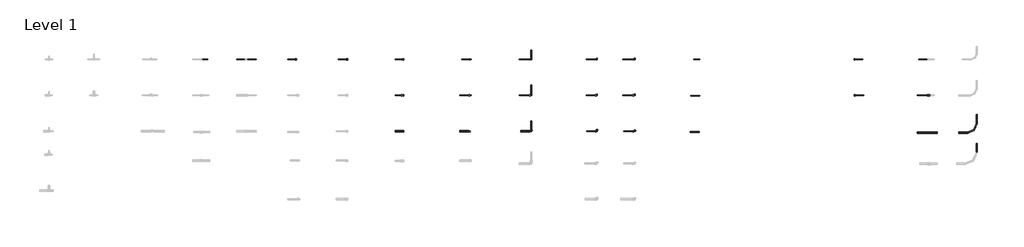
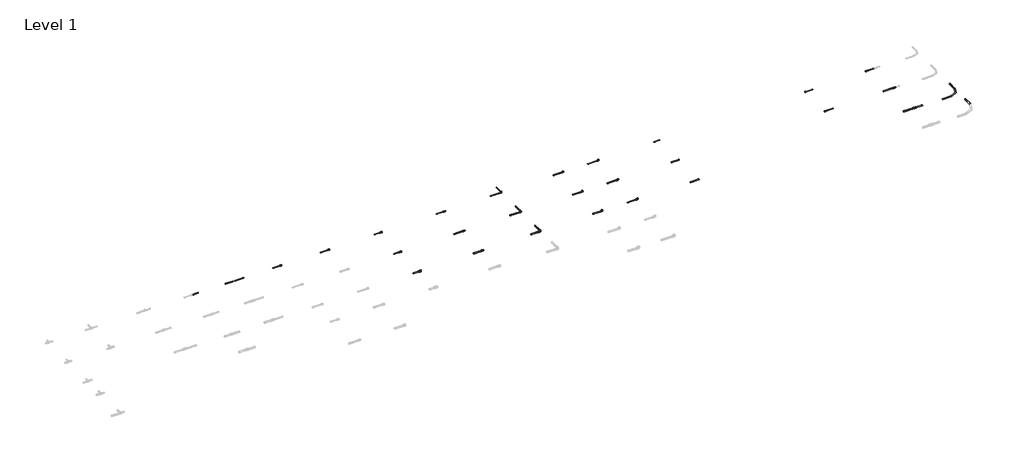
# One storey, part 12 of 16: 35 pipe segments, 24 pipe fittings.
"""IFC4 building model written with IfcOpenShell, lengths in millimetres."""

from ifc_helpers import new_model, si_unit, point, frame, frame_2d, origin, place, context, project, spatial, circle_curve, trimmed, segment, composite_curve, outline, extrude, transform, mapped, element, save
from components import pipe_fitting_3f045704, pipe_fitting_554da5ac, pipe_fitting_11a16acd, pipe_fitting_9dc6dfba, pipe_fitting_c58dc389, pipe_fitting_29307240, pipe_fitting_2e9639ed, pipe_fitting_749d9a03, pipe_fitting_037c3912, pipe_fitting_bf5c4f06, pipe_fitting_1a29b1f6, pipe_fitting_21c97d0d, pipe_fitting_48a19379, pipe_fitting_503ca6ef, pipe_fitting_0c2dddc6, pipe_fitting_fb4eec36, pipe_fitting_127ecf93, pipe_fitting_ad4eddfe, pipe_fitting_73c1a440, pipe_fitting_43ece0d2, pipe_fitting_f574101e, pipe_fitting_8e6c19f7, pipe_fitting_622d26cc, pipe_fitting_bacc4522

model = new_model("IFC4")

# Units and contexts
model_context = context("Model", 3, world=origin())
ifc_project = project(units=[si_unit("LENGTHUNIT", "METRE", prefix="MILLI")], contexts=[model_context])

# Site, building, storey
site = spatial("IfcSite", under=ifc_project)
building = spatial("IfcBuilding", under=site)
storey = spatial("IfcBuildingStorey", under=building, Name="Level 1", Elevation=0.0)

# Pipe fittings
placement = place(None, origin())
pipe_fitting_shape = pipe_fitting_3f045704(model_context)
element("IfcPipeFitting", 1, ObjectType="FASTLOC_Adapter_RX+, with external thread : FSL A C external EX+ DE", at=placement, inside=storey, context=model_context, shape_type="MappedRepresentation", body=[
    mapped(pipe_fitting_shape, transform((10045.0524741, 2012.3520033, 0.0), x_axis=(1.0, 0.0, 0.0), y_axis=(0.0, 1.0, 0.0), z_axis=(0.0, 0.0, 1.0))),
])
pipe_fitting_2_shape = pipe_fitting_554da5ac(model_context)
element("IfcPipeFitting", 2, ObjectType="FASTLOC_Elbow with male thread EX+ : FSL A internal DE", at=placement, inside=storey, context=model_context, shape_type="MappedRepresentation", body=[
    mapped(pipe_fitting_2_shape, transform((16735.3824015, 1212.3520033, 0.0), x_axis=(1.0, 0.0, 0.0), y_axis=(0.0, 1.0, 0.0), z_axis=(0.0, 0.0, 1.0))),
])
pipe_fitting_3_shape = pipe_fitting_11a16acd(model_context)
element("IfcPipeFitting", 3, ObjectType="FASTLOC_Elbow with female thread EX+ : FSL A internal DE", at=placement, inside=storey, context=model_context, shape_type="MappedRepresentation", body=[
    mapped(pipe_fitting_3_shape, transform((17573.8113057, 2012.3520033, 0.0), x_axis=(1.0, 0.0, 0.0), y_axis=(0.0, 1.0, 0.0), z_axis=(0.0, 0.0, 1.0))),
])
pipe_fitting_4_shape = pipe_fitting_9dc6dfba(model_context)
element("IfcPipeFitting", 4, ObjectType="FASTLOC_Corner EX+ : FSL C EX+ DE", at=placement, inside=storey, context=model_context, shape_type="MappedRepresentation", body=[
    mapped(pipe_fitting_4_shape, transform((15275.3824015, 2012.3520033, 0.0), x_axis=(1.0, 0.0, 0.0), y_axis=(0.0, 1.0, 0.0), z_axis=(0.0, 0.0, 1.0))),
])
pipe_fitting_5_shape = pipe_fitting_c58dc389(model_context)
element("IfcPipeFitting", 5, ObjectType="FASTLOC_Blanking plug EX+ : FSL Bp EX+ DE", at=placement, inside=storey, context=model_context, shape_type="MappedRepresentation", body=[
    mapped(pipe_fitting_5_shape, transform((22451.3241081, 2012.3520033, 0.0), x_axis=(1.0, 0.0, 0.0), y_axis=(0.0, 1.0, 0.0), z_axis=(0.0, 0.0, 1.0))),
])
pipe_fitting_6_shape = pipe_fitting_29307240(model_context)
element("IfcPipeFitting", 6, ObjectType="FASTLOC_Adapter_EX+, with internal thread : FSL A internal DE", at=placement, inside=storey, context=model_context, shape_type="MappedRepresentation", body=[
    mapped(pipe_fitting_6_shape, transform((11179.5143796, 2012.3520033, 0.0), x_axis=(1.0, 0.0, 0.0), y_axis=(0.0, 1.0, 0.0), z_axis=(0.0, 0.0, 1.0))),
])
pipe_fitting_7_shape = pipe_fitting_2e9639ed(model_context)
element("IfcPipeFitting", 7, ObjectType="FASTLOC Copper press adapter RX+ : FSL RX+ DE", at=placement, inside=storey, context=model_context, shape_type="MappedRepresentation", body=[
    mapped(pipe_fitting_7_shape, transform((13915.3824015, 2012.3520033, 0.0), x_axis=(1.0, 0.0, 0.0), y_axis=(0.0, 1.0, 0.0), z_axis=(0.0, 0.0, 1.0))),
])
pipe_fitting_8_shape = pipe_fitting_749d9a03(model_context)
element("IfcPipeFitting", 8, ObjectType="RAUTITAN_Sleeve PX : RTI S PX", at=placement, inside=storey, context=model_context, shape_type="MappedRepresentation", body=[
    mapped(pipe_fitting_8_shape, transform((24105.6241081, 1212.3520033, 13.7), x_axis=(1.0, 0.0, 0.0), y_axis=(0.0, 1.0, 0.0), z_axis=(0.0, 0.0, 1.0))),
])
pipe_fitting_9_shape = pipe_fitting_037c3912(model_context)
element("IfcPipeFitting", 9, ObjectType="RAUTITAN_Sleeve PX : RTI S PX", at=placement, inside=storey, context=model_context, shape_type="MappedRepresentation", body=[
    mapped(pipe_fitting_9_shape, transform((24107.9241081, 381.145754, 13.7), x_axis=(1.0, 0.0, 0.0), y_axis=(0.0, 1.0, 0.0), z_axis=(0.0, 0.0, 1.0))),
])
pipe_fitting_10_shape = pipe_fitting_bf5c4f06(model_context)
element("IfcPipeFitting", 10, ObjectType="FASTLOC_ML_bend : FSL ML DE", at=placement, inside=storey, context=model_context, shape_type="MappedRepresentation", body=[
    mapped(pipe_fitting_10_shape, transform((25170.2040344, 381.145754, 0.0), x_axis=(1.0, 0.0, 0.0), y_axis=(0.0, 1.0, 0.0), z_axis=(0.0, 0.0, 1.0))),
])
pipe_fitting_11_shape = pipe_fitting_1a29b1f6(model_context)
element("IfcPipeFitting", 11, ObjectType="FASTLOC_Elbow with male thread EX+ : FSL A internal DE", at=placement, inside=storey, context=model_context, shape_type="MappedRepresentation", body=[
    mapped(pipe_fitting_11_shape, transform((16735.3824015, 2012.3520033, 0.0), x_axis=(1.0, 0.0, 0.0), y_axis=(0.0, 1.0, 0.0), z_axis=(0.0, 0.0, 1.0))),
])
pipe_fitting_12_shape = pipe_fitting_21c97d0d(model_context)
element("IfcPipeFitting", 12, ObjectType="FASTLOC_Elbow with male thread EX+ : FSL A internal DE", at=placement, inside=storey, context=model_context, shape_type="MappedRepresentation", body=[
    mapped(pipe_fitting_12_shape, transform((16735.3824015, 412.3520033, 0.0), x_axis=(1.0, 0.0, 0.0), y_axis=(0.0, 1.0, 0.0), z_axis=(0.0, 0.0, 1.0))),
])
pipe_fitting_13_shape = pipe_fitting_48a19379(model_context)
element("IfcPipeFitting", 13, ObjectType="FASTLOC_Adapter coupling EX+ : FSL TC EX+ DE", at=placement, inside=storey, context=model_context, shape_type="MappedRepresentation", body=[
    mapped(pipe_fitting_13_shape, transform((24091.3241081, 1212.3520033, 13.7), x_axis=(1.0, 0.0, 0.0), y_axis=(0.0, 1.0, 0.0), z_axis=(0.0, 0.0, 1.0))),
])
pipe_fitting_14_shape = pipe_fitting_503ca6ef(model_context)
element("IfcPipeFitting", 14, ObjectType="FASTLOC_Adapter coupling EX+ : FSL TC EX+ DE", at=placement, inside=storey, context=model_context, shape_type="MappedRepresentation", body=[
    mapped(pipe_fitting_14_shape, transform((24091.3241081, 381.145754, 13.7), x_axis=(1.0, 0.0, 0.0), y_axis=(0.0, 1.0, 0.0), z_axis=(0.0, 0.0, 1.0))),
])
pipe_fitting_15_shape = pipe_fitting_0c2dddc6(model_context)
element("IfcPipeFitting", 15, ObjectType="FASTLOC_Blanking plug EX+ : FSL Bp EX+ DE", at=placement, inside=storey, context=model_context, shape_type="MappedRepresentation", body=[
    mapped(pipe_fitting_15_shape, transform((22451.3241081, 1212.3520033, 0.0), x_axis=(1.0, 0.0, 0.0), y_axis=(0.0, 1.0, 0.0), z_axis=(0.0, 0.0, 1.0))),
])
pipe_fitting_16_shape = pipe_fitting_fb4eec36(model_context)
element("IfcPipeFitting", 16, ObjectType="FASTLOC Copper press adapter RX+ : FSL RX+ DE", at=placement, inside=storey, context=model_context, shape_type="MappedRepresentation", body=[
    mapped(pipe_fitting_16_shape, transform((13915.3824015, 1212.3520033, 0.0), x_axis=(1.0, 0.0, 0.0), y_axis=(0.0, 1.0, 0.0), z_axis=(0.0, 0.0, 1.0))),
])
pipe_fitting_17_shape = pipe_fitting_127ecf93(model_context)
element("IfcPipeFitting", 17, ObjectType="FASTLOC Copper press adapter RX+ : FSL RX+ DE", at=placement, inside=storey, context=model_context, shape_type="MappedRepresentation", body=[
    mapped(pipe_fitting_17_shape, transform((13895.3824015, 412.3520033, 0.0), x_axis=(1.0, 0.0, 0.0), y_axis=(0.0, 1.0, 0.0), z_axis=(0.0, 0.0, 1.0))),
])
pipe_fitting_18_shape = pipe_fitting_ad4eddfe(model_context)
element("IfcPipeFitting", 18, ObjectType="FASTLOC_Elbow with female thread EX+ : FSL A internal DE", at=placement, inside=storey, context=model_context, shape_type="MappedRepresentation", body=[
    mapped(pipe_fitting_18_shape, transform((17573.8113057, 1212.3520033, 0.0), x_axis=(1.0, 0.0, 0.0), y_axis=(0.0, 1.0, 0.0), z_axis=(0.0, 0.0, 1.0))),
])
pipe_fitting_19_shape = pipe_fitting_73c1a440(model_context)
element("IfcPipeFitting", 19, ObjectType="FASTLOC_Elbow with female thread EX+ : FSL A internal DE", at=placement, inside=storey, context=model_context, shape_type="MappedRepresentation", body=[
    mapped(pipe_fitting_19_shape, transform((17573.8113057, 412.3520033, 0.0), x_axis=(1.0, 0.0, 0.0), y_axis=(0.0, 1.0, 0.0), z_axis=(0.0, 0.0, 1.0))),
])
pipe_fitting_20_shape = pipe_fitting_43ece0d2(model_context)
element("IfcPipeFitting", 20, ObjectType="FASTLOC_Corner EX+ : FSL C EX+ DE", at=placement, inside=storey, context=model_context, shape_type="MappedRepresentation", body=[
    mapped(pipe_fitting_20_shape, transform((15275.3824015, 1212.3520033, 0.0), x_axis=(1.0, 0.0, 0.0), y_axis=(0.0, 1.0, 0.0), z_axis=(0.0, 0.0, 1.0))),
])
pipe_fitting_21_shape = pipe_fitting_f574101e(model_context)
element("IfcPipeFitting", 21, ObjectType="FASTLOC_Corner EX+ : FSL C EX+ DE", at=placement, inside=storey, context=model_context, shape_type="MappedRepresentation", body=[
    mapped(pipe_fitting_21_shape, transform((15275.3824015, 412.3520033, 0.0), x_axis=(1.0, 0.0, 0.0), y_axis=(0.0, 1.0, 0.0), z_axis=(0.0, 0.0, 1.0))),
])
pipe_fitting_22_shape = pipe_fitting_8e6c19f7(model_context)
element("IfcPipeFitting", 22, ObjectType="FASTLOC_Adapter with union nut EX+ : FSL A union nut EX+ DE", at=placement, inside=storey, context=model_context, shape_type="MappedRepresentation", body=[
    mapped(pipe_fitting_22_shape, transform((12418.3503777, 2012.3520033, 0.0), x_axis=(1.0, 0.0, 0.0), y_axis=(0.0, 1.0, 0.0), z_axis=(0.0, 0.0, 1.0))),
])
pipe_fitting_23_shape = pipe_fitting_622d26cc(model_context)
element("IfcPipeFitting", 23, ObjectType="FASTLOC_Adapter with union nut EX+ : FSL A union nut EX+ DE", at=placement, inside=storey, context=model_context, shape_type="MappedRepresentation", body=[
    mapped(pipe_fitting_23_shape, transform((12418.3503777, 1212.3520033, 0.0), x_axis=(1.0, 0.0, 0.0), y_axis=(0.0, 1.0, 0.0), z_axis=(0.0, 0.0, 1.0))),
])
pipe_fitting_24_shape = pipe_fitting_bacc4522(model_context)
element("IfcPipeFitting", 24, ObjectType="FASTLOC_Adapter with union nut EX+ : FSL A union nut EX+ DE", at=placement, inside=storey, context=model_context, shape_type="MappedRepresentation", body=[
    mapped(pipe_fitting_24_shape, transform((12418.3503777, 412.3520033, 0.0), x_axis=(1.0, 0.0, 0.0), y_axis=(0.0, 1.0, 0.0), z_axis=(0.0, 0.0, 1.0))),
])

# Pipe segments
element("IfcPipeSegment", 25, ObjectType="FASTLOC EX+ ML DE bar", at=placement, inside=storey, context=model_context, shape_type="SweptSolid", body=[
    extrude(outline(composite_curve([segment(trimmed(circle_curve(frame_2d((0.0, 25170.2040344)), 12.5), [point((0.0, 25182.7040344))], [point((12.5, 25170.2040344))], False, "CARTESIAN"), True, "CONTINUOUS"), segment(trimmed(circle_curve(frame_2d((0.0, 25170.2040344)), 12.5), [point((12.5, 25170.2040344))], [point((0.0, 25157.7040344))], False, "CARTESIAN"), True, "CONTINUOUS"), segment(trimmed(circle_curve(frame_2d((0.0, 25170.2040344)), 12.5), [point((0.0, 25157.7040344))], [point((-12.5, 25170.2040344))], False, "CARTESIAN"), True, "CONTINUOUS"), segment(trimmed(circle_curve(frame_2d((0.0, 25170.2040344)), 12.5), [point((-12.5, 25170.2040344))], [point((0.0, 25182.7040344))], False, "CARTESIAN"), True, "CONTINUOUS")], self_intersect=False)), frame((0.0, 581.145754, 0.0), z_axis=(0.0, 1.0, 0.0), x_axis=(0.0, 0.0, 1.0)), (0.0, 0.0, 1.0), 200.0),
])
element("IfcPipeSegment", 26, ObjectType="FASTLOC EX+ ML DE bar", at=placement, inside=storey, context=model_context, shape_type="SweptSolid", body=[
    extrude(outline(composite_curve([segment(trimmed(circle_curve(frame_2d((381.145754, 0.0)), 12.5), [point((393.645754, 0.0))], [point((381.145754, -12.5))], False, "CARTESIAN"), True, "CONTINUOUS"), segment(trimmed(circle_curve(frame_2d((381.145754, 0.0)), 12.5), [point((381.145754, -12.5))], [point((368.645754, 0.0))], False, "CARTESIAN"), True, "CONTINUOUS"), segment(trimmed(circle_curve(frame_2d((381.145754, 0.0)), 12.5), [point((368.645754, 0.0))], [point((381.145754, 12.5))], False, "CARTESIAN"), True, "CONTINUOUS"), segment(trimmed(circle_curve(frame_2d((381.145754, 0.0)), 12.5), [point((381.145754, 12.5))], [point((393.645754, 0.0))], False, "CARTESIAN"), True, "CONTINUOUS")], self_intersect=False)), frame((24770.2040344, 0.0, 0.0), z_axis=(1.0, 0.0, 0.0), x_axis=(0.0, 1.0, 0.0)), (0.0, 0.0, 1.0), 200.0),
])
element("IfcPipeSegment", 27, ObjectType="FASTLOC EX+ ML DE bar", at=placement, inside=storey, context=model_context, shape_type="SweptSolid", body=[
    extrude(outline(composite_curve([segment(trimmed(circle_curve(frame_2d((0.0, 25170.2040344)), 16.0), [point((0.0, 25186.2040344))], [point((16.0, 25170.2040344))], False, "CARTESIAN"), True, "CONTINUOUS"), segment(trimmed(circle_curve(frame_2d((0.0, 25170.2040344)), 16.0), [point((16.0, 25170.2040344))], [point((0.0, 25154.2040344))], False, "CARTESIAN"), True, "CONTINUOUS"), segment(trimmed(circle_curve(frame_2d((0.0, 25170.2040344)), 16.0), [point((0.0, 25154.2040344))], [point((-16.0, 25170.2040344))], False, "CARTESIAN"), True, "CONTINUOUS"), segment(trimmed(circle_curve(frame_2d((0.0, 25170.2040344)), 16.0), [point((-16.0, 25170.2040344))], [point((0.0, 25186.2040344))], False, "CARTESIAN"), True, "CONTINUOUS")], self_intersect=False)), frame((0.0, -55.8142398, 0.0), z_axis=(0.0, 1.0, 0.0), x_axis=(0.0, 0.0, 1.0)), (0.0, 0.0, 1.0), 200.0),
])
element("IfcPipeSegment", 28, ObjectType="FASTLOC EX+ ML DE bar", at=placement, inside=storey, context=model_context, shape_type="SweptSolid", body=[
    extrude(outline(composite_curve([segment(trimmed(circle_curve(frame_2d((381.145754, 13.7)), 12.5), [point((393.645754, 13.7))], [point((381.145754, 1.2))], False, "CARTESIAN"), True, "CONTINUOUS"), segment(trimmed(circle_curve(frame_2d((381.145754, 13.7)), 12.5), [point((381.145754, 1.2))], [point((368.645754, 13.7))], False, "CARTESIAN"), True, "CONTINUOUS"), segment(trimmed(circle_curve(frame_2d((381.145754, 13.7)), 12.5), [point((368.645754, 13.7))], [point((381.145754, 26.2))], False, "CARTESIAN"), True, "CONTINUOUS"), segment(trimmed(circle_curve(frame_2d((381.145754, 13.7)), 12.5), [point((381.145754, 26.2))], [point((393.645754, 13.7))], False, "CARTESIAN"), True, "CONTINUOUS")], self_intersect=False)), frame((23846.7241081, 0.0, 0.0), z_axis=(1.0, 0.0, 0.0), x_axis=(0.0, 1.0, 0.0)), (0.0, 0.0, 1.0), 240.0),
])
element("IfcPipeSegment", 29, ObjectType="FASTLOC EX+ ML DE bar", at=placement, inside=storey, context=model_context, shape_type="SweptSolid", body=[
    extrude(outline(composite_curve([segment(trimmed(circle_curve(frame_2d((381.145754, 13.7)), 12.5), [point((368.645754, 13.7))], [point((381.145754, 26.2))], False, "CARTESIAN"), True, "CONTINUOUS"), segment(trimmed(circle_curve(frame_2d((381.145754, 13.7)), 12.5), [point((381.145754, 26.2))], [point((393.645754, 13.7))], False, "CARTESIAN"), True, "CONTINUOUS"), segment(trimmed(circle_curve(frame_2d((381.145754, 13.7)), 12.5), [point((393.645754, 13.7))], [point((381.145754, 1.2))], False, "CARTESIAN"), True, "CONTINUOUS"), segment(trimmed(circle_curve(frame_2d((381.145754, 13.7)), 12.5), [point((381.145754, 1.2))], [point((368.645754, 13.7))], False, "CARTESIAN"), True, "CONTINUOUS")], self_intersect=False)), frame((24107.9241081, 0.0, 0.0), z_axis=(1.0, 0.0, 0.0), x_axis=(0.0, 1.0, 0.0)), (0.0, 0.0, 1.0), 182.7),
])
element("IfcPipeSegment", 30, ObjectType="FASTLOC EX+ ML DE bar", at=placement, inside=storey, context=model_context, shape_type="SweptSolid", body=[
    extrude(outline(composite_curve([segment(trimmed(circle_curve(frame_2d((1212.3520033, 13.7)), 10.0), [point((1222.3520033, 13.7))], [point((1212.3520033, 3.7))], False, "CARTESIAN"), True, "CONTINUOUS"), segment(trimmed(circle_curve(frame_2d((1212.3520033, 13.7)), 10.0), [point((1212.3520033, 3.7))], [point((1202.3520033, 13.7))], False, "CARTESIAN"), True, "CONTINUOUS"), segment(trimmed(circle_curve(frame_2d((1212.3520033, 13.7)), 10.0), [point((1202.3520033, 13.7))], [point((1212.3520033, 23.7))], False, "CARTESIAN"), True, "CONTINUOUS"), segment(trimmed(circle_curve(frame_2d((1212.3520033, 13.7)), 10.0), [point((1212.3520033, 23.7))], [point((1222.3520033, 13.7))], False, "CARTESIAN"), True, "CONTINUOUS")], self_intersect=False)), frame((23846.7241081, 0.0, 0.0), z_axis=(1.0, 0.0, 0.0), x_axis=(0.0, 1.0, 0.0)), (0.0, 0.0, 1.0), 240.3),
])
element("IfcPipeSegment", 31, ObjectType="FASTLOC EX+ ML DE bar", at=placement, inside=storey, context=model_context, shape_type="SweptSolid", body=[
    extrude(outline(composite_curve([segment(trimmed(circle_curve(frame_2d((2012.3520033, 13.7)), 8.0), [point((2020.3520033, 13.7))], [point((2012.3520033, 5.7))], False, "CARTESIAN"), True, "CONTINUOUS"), segment(trimmed(circle_curve(frame_2d((2012.3520033, 13.7)), 8.0), [point((2012.3520033, 5.7))], [point((2004.3520033, 13.7))], False, "CARTESIAN"), True, "CONTINUOUS"), segment(trimmed(circle_curve(frame_2d((2012.3520033, 13.7)), 8.0), [point((2004.3520033, 13.7))], [point((2012.3520033, 21.7))], False, "CARTESIAN"), True, "CONTINUOUS"), segment(trimmed(circle_curve(frame_2d((2012.3520033, 13.7)), 8.0), [point((2012.3520033, 21.7))], [point((2020.3520033, 13.7))], False, "CARTESIAN"), True, "CONTINUOUS")], self_intersect=False)), frame((23887.0241081, 0.0, 0.0), z_axis=(1.0, 0.0, 0.0), x_axis=(0.0, 1.0, 0.0)), (0.0, 0.0, 1.0), 200.0),
])
element("IfcPipeSegment", 32, ObjectType="FASTLOC EX+ ML DE bar", at=placement, inside=storey, context=model_context, shape_type="SweptSolid", body=[
    extrude(outline(composite_curve([segment(trimmed(circle_curve(frame_2d((2012.3520033, 0.0)), 8.0), [point((2004.3520033, 0.0))], [point((2012.3520033, 8.0))], False, "CARTESIAN"), True, "CONTINUOUS"), segment(trimmed(circle_curve(frame_2d((2012.3520033, 0.0)), 8.0), [point((2012.3520033, 8.0))], [point((2020.3520033, 0.0))], False, "CARTESIAN"), True, "CONTINUOUS"), segment(trimmed(circle_curve(frame_2d((2012.3520033, 0.0)), 8.0), [point((2020.3520033, 0.0))], [point((2012.3520033, -8.0))], False, "CARTESIAN"), True, "CONTINUOUS"), segment(trimmed(circle_curve(frame_2d((2012.3520033, 0.0)), 8.0), [point((2012.3520033, -8.0))], [point((2004.3520033, 0.0))], False, "CARTESIAN"), True, "CONTINUOUS")], self_intersect=False)), frame((22458.0241081, 0.0, 0.0), z_axis=(1.0, 0.0, 0.0), x_axis=(0.0, 1.0, 0.0)), (0.0, 0.0, 1.0), 180.0),
])
element("IfcPipeSegment", 33, ObjectType="FASTLOC EX+ ML DE bar", at=placement, inside=storey, context=model_context, shape_type="SweptSolid", body=[
    extrude(outline(composite_curve([segment(trimmed(circle_curve(frame_2d((1212.3520033, 0.0)), 10.0), [point((1202.3520033, 0.0))], [point((1212.3520033, 10.0))], False, "CARTESIAN"), True, "CONTINUOUS"), segment(trimmed(circle_curve(frame_2d((1212.3520033, 0.0)), 10.0), [point((1212.3520033, 10.0))], [point((1222.3520033, 0.0))], False, "CARTESIAN"), True, "CONTINUOUS"), segment(trimmed(circle_curve(frame_2d((1212.3520033, 0.0)), 10.0), [point((1222.3520033, 0.0))], [point((1212.3520033, -10.0))], False, "CARTESIAN"), True, "CONTINUOUS"), segment(trimmed(circle_curve(frame_2d((1212.3520033, 0.0)), 10.0), [point((1212.3520033, -10.0))], [point((1202.3520033, 0.0))], False, "CARTESIAN"), True, "CONTINUOUS")], self_intersect=False)), frame((22458.0241081, 0.0, 0.0), z_axis=(1.0, 0.0, 0.0), x_axis=(0.0, 1.0, 0.0)), (0.0, 0.0, 1.0), 200.0),
])
element("IfcPipeSegment", 34, ObjectType="FASTLOC EX+ ML DE bar", at=placement, inside=storey, context=model_context, shape_type="SweptSolid", body=[
    extrude(outline(composite_curve([segment(trimmed(circle_curve(frame_2d((2012.3520033, 0.0)), 8.0), [point((2020.3520033, 0.0))], [point((2012.3520033, -8.0))], False, "CARTESIAN"), True, "CONTINUOUS"), segment(trimmed(circle_curve(frame_2d((2012.3520033, 0.0)), 8.0), [point((2012.3520033, -8.0))], [point((2004.3520033, 0.0))], False, "CARTESIAN"), True, "CONTINUOUS"), segment(trimmed(circle_curve(frame_2d((2012.3520033, 0.0)), 8.0), [point((2004.3520033, 0.0))], [point((2012.3520033, 8.0))], False, "CARTESIAN"), True, "CONTINUOUS"), segment(trimmed(circle_curve(frame_2d((2012.3520033, 0.0)), 8.0), [point((2012.3520033, 8.0))], [point((2020.3520033, 0.0))], False, "CARTESIAN"), True, "CONTINUOUS")], self_intersect=False)), frame((18882.8824015, 0.0, 0.0), z_axis=(1.0, 0.0, 0.0), x_axis=(0.0, 1.0, 0.0)), (0.0, 0.0, 1.0), 130.0),
])
element("IfcPipeSegment", 35, ObjectType="FASTLOC EX+ ML DE bar", at=placement, inside=storey, context=model_context, shape_type="SweptSolid", body=[
    extrude(outline(composite_curve([segment(trimmed(circle_curve(frame_2d((1204.3520033, 0.0)), 8.0), [point((1212.3520033, 0.0))], [point((1204.3520033, -8.0))], False, "CARTESIAN"), True, "CONTINUOUS"), segment(trimmed(circle_curve(frame_2d((1204.3520033, 0.0)), 8.0), [point((1204.3520033, -8.0))], [point((1196.3520033, 0.0))], False, "CARTESIAN"), True, "CONTINUOUS"), segment(trimmed(circle_curve(frame_2d((1204.3520033, 0.0)), 8.0), [point((1196.3520033, 0.0))], [point((1204.3520033, 8.0))], False, "CARTESIAN"), True, "CONTINUOUS"), segment(trimmed(circle_curve(frame_2d((1204.3520033, 0.0)), 8.0), [point((1204.3520033, 8.0))], [point((1212.3520033, 0.0))], False, "CARTESIAN"), True, "CONTINUOUS")], self_intersect=False)), frame((18822.8824015, 0.0, 0.0), z_axis=(1.0, 0.0, 0.0), x_axis=(0.0, 1.0, 0.0)), (0.0, 0.0, 1.0), 190.0),
])
element("IfcPipeSegment", 36, ObjectType="FASTLOC EX+ ML DE bar", at=placement, inside=storey, context=model_context, shape_type="SweptSolid", body=[
    extrude(outline(composite_curve([segment(trimmed(circle_curve(frame_2d((393.645754, 0.0)), 12.5), [point((406.145754, 0.0))], [point((393.645754, -12.5))], False, "CARTESIAN"), True, "CONTINUOUS"), segment(trimmed(circle_curve(frame_2d((393.645754, 0.0)), 12.5), [point((393.645754, -12.5))], [point((381.145754, 0.0))], False, "CARTESIAN"), True, "CONTINUOUS"), segment(trimmed(circle_curve(frame_2d((393.645754, 0.0)), 12.5), [point((381.145754, 0.0))], [point((393.645754, 12.5))], False, "CARTESIAN"), True, "CONTINUOUS"), segment(trimmed(circle_curve(frame_2d((393.645754, 0.0)), 12.5), [point((393.645754, 12.5))], [point((406.145754, 0.0))], False, "CARTESIAN"), True, "CONTINUOUS")], self_intersect=False)), frame((18808.4824015, 0.0, 0.0), z_axis=(1.0, 0.0, 0.0), x_axis=(0.0, 1.0, 0.0)), (0.0, 0.0, 1.0), 200.0),
])
element("IfcPipeSegment", 37, ObjectType="FASTLOC EX+ ML DE bar", at=placement, inside=storey, context=model_context, shape_type="SweptSolid", body=[
    extrude(outline(composite_curve([segment(trimmed(circle_curve(frame_2d((412.3520033, 0.0)), 10.0), [point((422.3520033, 0.0))], [point((412.3520033, -10.0))], False, "CARTESIAN"), True, "CONTINUOUS"), segment(trimmed(circle_curve(frame_2d((412.3520033, 0.0)), 10.0), [point((412.3520033, -10.0))], [point((402.3520033, 0.0))], False, "CARTESIAN"), True, "CONTINUOUS"), segment(trimmed(circle_curve(frame_2d((412.3520033, 0.0)), 10.0), [point((402.3520033, 0.0))], [point((412.3520033, 10.0))], False, "CARTESIAN"), True, "CONTINUOUS"), segment(trimmed(circle_curve(frame_2d((412.3520033, 0.0)), 10.0), [point((412.3520033, 10.0))], [point((422.3520033, 0.0))], False, "CARTESIAN"), True, "CONTINUOUS")], self_intersect=False)), frame((17326.8113057, 0.0, 0.0), z_axis=(1.0, 0.0, 0.0), x_axis=(0.0, 1.0, 0.0)), (0.0, 0.0, 1.0), 221.0),
])
element("IfcPipeSegment", 38, ObjectType="FASTLOC EX+ ML DE bar", at=placement, inside=storey, context=model_context, shape_type="SweptSolid", body=[
    extrude(outline(composite_curve([segment(trimmed(circle_curve(frame_2d((1212.3520033, 0.0)), 10.0), [point((1222.3520033, 0.0))], [point((1212.3520033, -10.0))], False, "CARTESIAN"), True, "CONTINUOUS"), segment(trimmed(circle_curve(frame_2d((1212.3520033, 0.0)), 10.0), [point((1212.3520033, -10.0))], [point((1202.3520033, 0.0))], False, "CARTESIAN"), True, "CONTINUOUS"), segment(trimmed(circle_curve(frame_2d((1212.3520033, 0.0)), 10.0), [point((1202.3520033, 0.0))], [point((1212.3520033, 10.0))], False, "CARTESIAN"), True, "CONTINUOUS"), segment(trimmed(circle_curve(frame_2d((1212.3520033, 0.0)), 10.0), [point((1212.3520033, 10.0))], [point((1222.3520033, 0.0))], False, "CARTESIAN"), True, "CONTINUOUS")], self_intersect=False)), frame((17311.1113057, 0.0, 0.0), z_axis=(1.0, 0.0, 0.0), x_axis=(0.0, 1.0, 0.0)), (0.0, 0.0, 1.0), 240.0),
])
element("IfcPipeSegment", 39, ObjectType="FASTLOC EX+ ML DE bar", at=placement, inside=storey, context=model_context, shape_type="SweptSolid", body=[
    extrude(outline(composite_curve([segment(trimmed(circle_curve(frame_2d((2012.3520033, 0.0)), 8.0), [point((2020.3520033, 0.0))], [point((2012.3520033, -8.0))], False, "CARTESIAN"), True, "CONTINUOUS"), segment(trimmed(circle_curve(frame_2d((2012.3520033, 0.0)), 8.0), [point((2012.3520033, -8.0))], [point((2004.3520033, 0.0))], False, "CARTESIAN"), True, "CONTINUOUS"), segment(trimmed(circle_curve(frame_2d((2012.3520033, 0.0)), 8.0), [point((2004.3520033, 0.0))], [point((2012.3520033, 8.0))], False, "CARTESIAN"), True, "CONTINUOUS"), segment(trimmed(circle_curve(frame_2d((2012.3520033, 0.0)), 8.0), [point((2012.3520033, 8.0))], [point((2020.3520033, 0.0))], False, "CARTESIAN"), True, "CONTINUOUS")], self_intersect=False)), frame((17311.1113057, 0.0, 0.0), z_axis=(1.0, 0.0, 0.0), x_axis=(0.0, 1.0, 0.0)), (0.0, 0.0, 1.0), 240.4),
])
element("IfcPipeSegment", 40, ObjectType="FASTLOC EX+ ML DE bar", at=placement, inside=storey, context=model_context, shape_type="SweptSolid", body=[
    extrude(outline(composite_curve([segment(trimmed(circle_curve(frame_2d((2012.3520033, 0.0)), 8.0), [point((2020.3520033, 0.0))], [point((2012.3520033, -8.0))], False, "CARTESIAN"), True, "CONTINUOUS"), segment(trimmed(circle_curve(frame_2d((2012.3520033, 0.0)), 8.0), [point((2012.3520033, -8.0))], [point((2004.3520033, 0.0))], False, "CARTESIAN"), True, "CONTINUOUS"), segment(trimmed(circle_curve(frame_2d((2012.3520033, 0.0)), 8.0), [point((2004.3520033, 0.0))], [point((2012.3520033, 8.0))], False, "CARTESIAN"), True, "CONTINUOUS"), segment(trimmed(circle_curve(frame_2d((2012.3520033, 0.0)), 8.0), [point((2012.3520033, 8.0))], [point((2020.3520033, 0.0))], False, "CARTESIAN"), True, "CONTINUOUS")], self_intersect=False)), frame((16495.5824015, 0.0, 0.0), z_axis=(1.0, 0.0, 0.0), x_axis=(0.0, 1.0, 0.0)), (0.0, 0.0, 1.0), 220.0),
])
element("IfcPipeSegment", 41, ObjectType="FASTLOC EX+ ML DE bar", at=placement, inside=storey, context=model_context, shape_type="SweptSolid", body=[
    extrude(outline(composite_curve([segment(trimmed(circle_curve(frame_2d((1212.3520033, 0.0)), 10.0), [point((1222.3520033, 0.0))], [point((1212.3520033, -10.0))], False, "CARTESIAN"), True, "CONTINUOUS"), segment(trimmed(circle_curve(frame_2d((1212.3520033, 0.0)), 10.0), [point((1212.3520033, -10.0))], [point((1202.3520033, 0.0))], False, "CARTESIAN"), True, "CONTINUOUS"), segment(trimmed(circle_curve(frame_2d((1212.3520033, 0.0)), 10.0), [point((1202.3520033, 0.0))], [point((1212.3520033, 10.0))], False, "CARTESIAN"), True, "CONTINUOUS"), segment(trimmed(circle_curve(frame_2d((1212.3520033, 0.0)), 10.0), [point((1212.3520033, 10.0))], [point((1222.3520033, 0.0))], False, "CARTESIAN"), True, "CONTINUOUS")], self_intersect=False)), frame((16495.5824015, 0.0, 0.0), z_axis=(1.0, 0.0, 0.0), x_axis=(0.0, 1.0, 0.0)), (0.0, 0.0, 1.0), 219.6),
])
element("IfcPipeSegment", 42, ObjectType="FASTLOC EX+ ML DE bar", at=placement, inside=storey, context=model_context, shape_type="SweptSolid", body=[
    extrude(outline(composite_curve([segment(trimmed(circle_curve(frame_2d((412.3520033, 0.0)), 10.0), [point((422.3520033, 0.0))], [point((412.3520033, -10.0))], False, "CARTESIAN"), True, "CONTINUOUS"), segment(trimmed(circle_curve(frame_2d((412.3520033, 0.0)), 10.0), [point((412.3520033, -10.0))], [point((402.3520033, 0.0))], False, "CARTESIAN"), True, "CONTINUOUS"), segment(trimmed(circle_curve(frame_2d((412.3520033, 0.0)), 10.0), [point((402.3520033, 0.0))], [point((412.3520033, 10.0))], False, "CARTESIAN"), True, "CONTINUOUS"), segment(trimmed(circle_curve(frame_2d((412.3520033, 0.0)), 10.0), [point((412.3520033, 10.0))], [point((422.3520033, 0.0))], False, "CARTESIAN"), True, "CONTINUOUS")], self_intersect=False)), frame((16512.1824015, 0.0, 0.0), z_axis=(1.0, 0.0, 0.0), x_axis=(0.0, 1.0, 0.0)), (0.0, 0.0, 1.0), 200.0),
])
element("IfcPipeSegment", 43, ObjectType="FASTLOC EX+ ML DE bar", at=placement, inside=storey, context=model_context, shape_type="SweptSolid", body=[
    extrude(outline(composite_curve([segment(trimmed(circle_curve(frame_2d((2012.3520033, 0.0)), 8.0), [point((2020.3520033, 0.0))], [point((2012.3520033, -8.0))], False, "CARTESIAN"), True, "CONTINUOUS"), segment(trimmed(circle_curve(frame_2d((2012.3520033, 0.0)), 8.0), [point((2012.3520033, -8.0))], [point((2004.3520033, 0.0))], False, "CARTESIAN"), True, "CONTINUOUS"), segment(trimmed(circle_curve(frame_2d((2012.3520033, 0.0)), 8.0), [point((2004.3520033, 0.0))], [point((2012.3520033, 8.0))], False, "CARTESIAN"), True, "CONTINUOUS"), segment(trimmed(circle_curve(frame_2d((2012.3520033, 0.0)), 8.0), [point((2012.3520033, 8.0))], [point((2020.3520033, 0.0))], False, "CARTESIAN"), True, "CONTINUOUS")], self_intersect=False)), frame((15013.2824015, 0.0, 0.0), z_axis=(1.0, 0.0, 0.0), x_axis=(0.0, 1.0, 0.0)), (0.0, 0.0, 1.0), 240.0),
])
element("IfcPipeSegment", 44, ObjectType="FASTLOC EX+ ML DE bar", at=placement, inside=storey, context=model_context, shape_type="SweptSolid", body=[
    extrude(outline(composite_curve([segment(trimmed(circle_curve(frame_2d((1212.3520033, 0.0)), 10.0), [point((1222.3520033, 0.0))], [point((1212.3520033, -10.0))], False, "CARTESIAN"), True, "CONTINUOUS"), segment(trimmed(circle_curve(frame_2d((1212.3520033, 0.0)), 10.0), [point((1212.3520033, -10.0))], [point((1202.3520033, 0.0))], False, "CARTESIAN"), True, "CONTINUOUS"), segment(trimmed(circle_curve(frame_2d((1212.3520033, 0.0)), 10.0), [point((1202.3520033, 0.0))], [point((1212.3520033, 10.0))], False, "CARTESIAN"), True, "CONTINUOUS"), segment(trimmed(circle_curve(frame_2d((1212.3520033, 0.0)), 10.0), [point((1212.3520033, 10.0))], [point((1222.3520033, 0.0))], False, "CARTESIAN"), True, "CONTINUOUS")], self_intersect=False)), frame((15013.2824015, 0.0, 0.0), z_axis=(1.0, 0.0, 0.0), x_axis=(0.0, 1.0, 0.0)), (0.0, 0.0, 1.0), 237.5),
])
element("IfcPipeSegment", 45, ObjectType="FASTLOC EX+ ML DE bar", at=placement, inside=storey, context=model_context, shape_type="SweptSolid", body=[
    extrude(outline(composite_curve([segment(trimmed(circle_curve(frame_2d((0.0, 15275.3824015)), 10.0), [point((0.0, 15285.3824015))], [point((10.0, 15275.3824015))], False, "CARTESIAN"), True, "CONTINUOUS"), segment(trimmed(circle_curve(frame_2d((0.0, 15275.3824015)), 10.0), [point((10.0, 15275.3824015))], [point((0.0, 15265.3824015))], False, "CARTESIAN"), True, "CONTINUOUS"), segment(trimmed(circle_curve(frame_2d((0.0, 15275.3824015)), 10.0), [point((0.0, 15265.3824015))], [point((-10.0, 15275.3824015))], False, "CARTESIAN"), True, "CONTINUOUS"), segment(trimmed(circle_curve(frame_2d((0.0, 15275.3824015)), 10.0), [point((-10.0, 15275.3824015))], [point((0.0, 15285.3824015))], False, "CARTESIAN"), True, "CONTINUOUS")], self_intersect=False)), frame((0.0, 1236.9520033, 0.0), z_axis=(0.0, 1.0, 0.0), x_axis=(0.0, 0.0, 1.0)), (0.0, 0.0, 1.0), 200.0),
])
element("IfcPipeSegment", 46, ObjectType="FASTLOC EX+ ML DE bar", at=placement, inside=storey, context=model_context, shape_type="SweptSolid", body=[
    extrude(outline(composite_curve([segment(trimmed(circle_curve(frame_2d((0.0, 15275.3824015)), 8.0), [point((0.0, 15283.3824015))], [point((8.0, 15275.3824015))], False, "CARTESIAN"), True, "CONTINUOUS"), segment(trimmed(circle_curve(frame_2d((0.0, 15275.3824015)), 8.0), [point((8.0, 15275.3824015))], [point((0.0, 15267.3824015))], False, "CARTESIAN"), True, "CONTINUOUS"), segment(trimmed(circle_curve(frame_2d((0.0, 15275.3824015)), 8.0), [point((0.0, 15267.3824015))], [point((-8.0, 15275.3824015))], False, "CARTESIAN"), True, "CONTINUOUS"), segment(trimmed(circle_curve(frame_2d((0.0, 15275.3824015)), 8.0), [point((-8.0, 15275.3824015))], [point((0.0, 15283.3824015))], False, "CARTESIAN"), True, "CONTINUOUS")], self_intersect=False)), frame((0.0, 2034.4520033, 0.0), z_axis=(0.0, 1.0, 0.0), x_axis=(0.0, 0.0, 1.0)), (0.0, 0.0, 1.0), 180.0),
])
element("IfcPipeSegment", 47, ObjectType="FASTLOC EX+ ML DE bar", at=placement, inside=storey, context=model_context, shape_type="SweptSolid", body=[
    extrude(outline(composite_curve([segment(trimmed(circle_curve(frame_2d((0.0, 15275.3824015)), 12.5), [point((0.0, 15287.8824015))], [point((12.5, 15275.3824015))], False, "CARTESIAN"), True, "CONTINUOUS"), segment(trimmed(circle_curve(frame_2d((0.0, 15275.3824015)), 12.5), [point((12.5, 15275.3824015))], [point((0.0, 15262.8824015))], False, "CARTESIAN"), True, "CONTINUOUS"), segment(trimmed(circle_curve(frame_2d((0.0, 15275.3824015)), 12.5), [point((0.0, 15262.8824015))], [point((-12.5, 15275.3824015))], False, "CARTESIAN"), True, "CONTINUOUS"), segment(trimmed(circle_curve(frame_2d((0.0, 15275.3824015)), 12.5), [point((-12.5, 15275.3824015))], [point((0.0, 15287.8824015))], False, "CARTESIAN"), True, "CONTINUOUS")], self_intersect=False)), frame((0.0, 441.3520033, 0.0), z_axis=(0.0, 1.0, 0.0), x_axis=(0.0, 0.0, 1.0)), (0.0, 0.0, 1.0), 200.0),
])
element("IfcPipeSegment", 48, ObjectType="FASTLOC EX+ ML DE bar", at=placement, inside=storey, context=model_context, shape_type="SweptSolid", body=[
    extrude(outline(composite_curve([segment(trimmed(circle_curve(frame_2d((412.3520033, 0.0)), 12.5), [point((424.8520033, 0.0))], [point((412.3520033, -12.5))], False, "CARTESIAN"), True, "CONTINUOUS"), segment(trimmed(circle_curve(frame_2d((412.3520033, 0.0)), 12.5), [point((412.3520033, -12.5))], [point((399.8520033, 0.0))], False, "CARTESIAN"), True, "CONTINUOUS"), segment(trimmed(circle_curve(frame_2d((412.3520033, 0.0)), 12.5), [point((399.8520033, 0.0))], [point((412.3520033, 12.5))], False, "CARTESIAN"), True, "CONTINUOUS"), segment(trimmed(circle_curve(frame_2d((412.3520033, 0.0)), 12.5), [point((412.3520033, 12.5))], [point((424.8520033, 0.0))], False, "CARTESIAN"), True, "CONTINUOUS")], self_intersect=False)), frame((15046.3824015, 0.0, 0.0), z_axis=(1.0, 0.0, 0.0), x_axis=(0.0, 1.0, 0.0)), (0.0, 0.0, 1.0), 200.0),
])
element("IfcPipeSegment", 49, ObjectType="FASTLOC EX+ ML DE bar", at=placement, inside=storey, context=model_context, shape_type="SweptSolid", body=[
    extrude(outline(composite_curve([segment(trimmed(circle_curve(frame_2d((412.3520033, 0.0)), 12.5), [point((424.8520033, 0.0))], [point((412.3520033, -12.5))], False, "CARTESIAN"), True, "CONTINUOUS"), segment(trimmed(circle_curve(frame_2d((412.3520033, 0.0)), 12.5), [point((412.3520033, -12.5))], [point((399.8520033, 0.0))], False, "CARTESIAN"), True, "CONTINUOUS"), segment(trimmed(circle_curve(frame_2d((412.3520033, 0.0)), 12.5), [point((399.8520033, 0.0))], [point((412.3520033, 12.5))], False, "CARTESIAN"), True, "CONTINUOUS"), segment(trimmed(circle_curve(frame_2d((412.3520033, 0.0)), 12.5), [point((412.3520033, 12.5))], [point((424.8520033, 0.0))], False, "CARTESIAN"), True, "CONTINUOUS")], self_intersect=False)), frame((13682.2824015, 0.0, 0.0), z_axis=(1.0, 0.0, 0.0), x_axis=(0.0, 1.0, 0.0)), (0.0, 0.0, 1.0), 202.5),
])
element("IfcPipeSegment", 50, ObjectType="FASTLOC EX+ ML DE bar", at=placement, inside=storey, context=model_context, shape_type="SweptSolid", body=[
    extrude(outline(composite_curve([segment(trimmed(circle_curve(frame_2d((1212.3520033, 0.0)), 10.0), [point((1222.3520033, 0.0))], [point((1212.3520033, -10.0))], False, "CARTESIAN"), True, "CONTINUOUS"), segment(trimmed(circle_curve(frame_2d((1212.3520033, 0.0)), 10.0), [point((1212.3520033, -10.0))], [point((1202.3520033, 0.0))], False, "CARTESIAN"), True, "CONTINUOUS"), segment(trimmed(circle_curve(frame_2d((1212.3520033, 0.0)), 10.0), [point((1202.3520033, 0.0))], [point((1212.3520033, 10.0))], False, "CARTESIAN"), True, "CONTINUOUS"), segment(trimmed(circle_curve(frame_2d((1212.3520033, 0.0)), 10.0), [point((1212.3520033, 10.0))], [point((1222.3520033, 0.0))], False, "CARTESIAN"), True, "CONTINUOUS")], self_intersect=False)), frame((13682.2824015, 0.0, 0.0), z_axis=(1.0, 0.0, 0.0), x_axis=(0.0, 1.0, 0.0)), (0.0, 0.0, 1.0), 223.9),
])
element("IfcPipeSegment", 51, ObjectType="FASTLOC EX+ ML DE bar", at=placement, inside=storey, context=model_context, shape_type="SweptSolid", body=[
    extrude(outline(composite_curve([segment(trimmed(circle_curve(frame_2d((2012.3520033, 0.0)), 8.0), [point((2020.3520033, 0.0))], [point((2012.3520033, -8.0))], False, "CARTESIAN"), True, "CONTINUOUS"), segment(trimmed(circle_curve(frame_2d((2012.3520033, 0.0)), 8.0), [point((2012.3520033, -8.0))], [point((2004.3520033, 0.0))], False, "CARTESIAN"), True, "CONTINUOUS"), segment(trimmed(circle_curve(frame_2d((2012.3520033, 0.0)), 8.0), [point((2004.3520033, 0.0))], [point((2012.3520033, 8.0))], False, "CARTESIAN"), True, "CONTINUOUS"), segment(trimmed(circle_curve(frame_2d((2012.3520033, 0.0)), 8.0), [point((2012.3520033, 8.0))], [point((2020.3520033, 0.0))], False, "CARTESIAN"), True, "CONTINUOUS")], self_intersect=False)), frame((13726.4824015, 0.0, 0.0), z_axis=(1.0, 0.0, 0.0), x_axis=(0.0, 1.0, 0.0)), (0.0, 0.0, 1.0), 180.0),
])
element("IfcPipeSegment", 52, ObjectType="FASTLOC EX+ ML DE bar", at=placement, inside=storey, context=model_context, shape_type="SweptSolid", body=[
    extrude(outline(composite_curve([segment(trimmed(circle_curve(frame_2d((2012.3520033, 0.0)), 8.0), [point((2020.3520033, 0.0))], [point((2012.3520033, -8.0))], False, "CARTESIAN"), True, "CONTINUOUS"), segment(trimmed(circle_curve(frame_2d((2012.3520033, 0.0)), 8.0), [point((2012.3520033, -8.0))], [point((2004.3520033, 0.0))], False, "CARTESIAN"), True, "CONTINUOUS"), segment(trimmed(circle_curve(frame_2d((2012.3520033, 0.0)), 8.0), [point((2004.3520033, 0.0))], [point((2012.3520033, 8.0))], False, "CARTESIAN"), True, "CONTINUOUS"), segment(trimmed(circle_curve(frame_2d((2012.3520033, 0.0)), 8.0), [point((2012.3520033, 8.0))], [point((2020.3520033, 0.0))], False, "CARTESIAN"), True, "CONTINUOUS")], self_intersect=False)), frame((12259.3503777, 0.0, 0.0), z_axis=(1.0, 0.0, 0.0), x_axis=(0.0, 1.0, 0.0)), (0.0, 0.0, 1.0), 150.0),
])
element("IfcPipeSegment", 53, ObjectType="FASTLOC EX+ ML DE bar", at=placement, inside=storey, context=model_context, shape_type="SweptSolid", body=[
    extrude(outline(composite_curve([segment(trimmed(circle_curve(frame_2d((1212.3520033, 0.0)), 10.0), [point((1222.3520033, 0.0))], [point((1212.3520033, -10.0))], False, "CARTESIAN"), True, "CONTINUOUS"), segment(trimmed(circle_curve(frame_2d((1212.3520033, 0.0)), 10.0), [point((1212.3520033, -10.0))], [point((1202.3520033, 0.0))], False, "CARTESIAN"), True, "CONTINUOUS"), segment(trimmed(circle_curve(frame_2d((1212.3520033, 0.0)), 10.0), [point((1202.3520033, 0.0))], [point((1212.3520033, 10.0))], False, "CARTESIAN"), True, "CONTINUOUS"), segment(trimmed(circle_curve(frame_2d((1212.3520033, 0.0)), 10.0), [point((1212.3520033, 10.0))], [point((1222.3520033, 0.0))], False, "CARTESIAN"), True, "CONTINUOUS")], self_intersect=False)), frame((12259.3503777, 0.0, 0.0), z_axis=(1.0, 0.0, 0.0), x_axis=(0.0, 1.0, 0.0)), (0.0, 0.0, 1.0), 150.0),
])
element("IfcPipeSegment", 54, ObjectType="FASTLOC EX+ ML DE bar", at=placement, inside=storey, context=model_context, shape_type="SweptSolid", body=[
    extrude(outline(composite_curve([segment(trimmed(circle_curve(frame_2d((412.3520033, 0.0)), 12.5), [point((424.8520033, 0.0))], [point((412.3520033, -12.5))], False, "CARTESIAN"), True, "CONTINUOUS"), segment(trimmed(circle_curve(frame_2d((412.3520033, 0.0)), 12.5), [point((412.3520033, -12.5))], [point((399.8520033, 0.0))], False, "CARTESIAN"), True, "CONTINUOUS"), segment(trimmed(circle_curve(frame_2d((412.3520033, 0.0)), 12.5), [point((399.8520033, 0.0))], [point((412.3520033, 12.5))], False, "CARTESIAN"), True, "CONTINUOUS"), segment(trimmed(circle_curve(frame_2d((412.3520033, 0.0)), 12.5), [point((412.3520033, 12.5))], [point((424.8520033, 0.0))], False, "CARTESIAN"), True, "CONTINUOUS")], self_intersect=False)), frame((12259.3503777, 0.0, 0.0), z_axis=(1.0, 0.0, 0.0), x_axis=(0.0, 1.0, 0.0)), (0.0, 0.0, 1.0), 148.7),
])
element("IfcPipeSegment", 55, ObjectType="FASTLOC EX+ ML DE bar", at=placement, inside=storey, context=model_context, shape_type="SweptSolid", body=[
    extrude(outline(composite_curve([segment(trimmed(circle_curve(frame_2d((2012.3520033, 0.0)), 8.0), [point((2020.3520033, 0.0))], [point((2012.3520033, -8.0))], False, "CARTESIAN"), True, "CONTINUOUS"), segment(trimmed(circle_curve(frame_2d((2012.3520033, 0.0)), 8.0), [point((2012.3520033, -8.0))], [point((2004.3520033, 0.0))], False, "CARTESIAN"), True, "CONTINUOUS"), segment(trimmed(circle_curve(frame_2d((2012.3520033, 0.0)), 8.0), [point((2004.3520033, 0.0))], [point((2012.3520033, 8.0))], False, "CARTESIAN"), True, "CONTINUOUS"), segment(trimmed(circle_curve(frame_2d((2012.3520033, 0.0)), 8.0), [point((2012.3520033, 8.0))], [point((2020.3520033, 0.0))], False, "CARTESIAN"), True, "CONTINUOUS")], self_intersect=False)), frame((10987.1143796, 0.0, 0.0), z_axis=(1.0, 0.0, 0.0), x_axis=(0.0, 1.0, 0.0)), (0.0, 0.0, 1.0), 180.0),
])
element("IfcPipeSegment", 56, ObjectType="FASTLOC EX+ ML DE bar", at=placement, inside=storey, context=model_context, shape_type="SweptSolid", body=[
    extrude(outline(composite_curve([segment(trimmed(circle_curve(frame_2d((2012.3520033, 0.0)), 8.0), [point((2020.3520033, 0.0))], [point((2012.3520033, -8.0))], False, "CARTESIAN"), True, "CONTINUOUS"), segment(trimmed(circle_curve(frame_2d((2012.3520033, 0.0)), 8.0), [point((2012.3520033, -8.0))], [point((2004.3520033, 0.0))], False, "CARTESIAN"), True, "CONTINUOUS"), segment(trimmed(circle_curve(frame_2d((2012.3520033, 0.0)), 8.0), [point((2004.3520033, 0.0))], [point((2012.3520033, 8.0))], False, "CARTESIAN"), True, "CONTINUOUS"), segment(trimmed(circle_curve(frame_2d((2012.3520033, 0.0)), 8.0), [point((2012.3520033, 8.0))], [point((2020.3520033, 0.0))], False, "CARTESIAN"), True, "CONTINUOUS")], self_intersect=False)), frame((9861.9359613, 0.0, 0.0), z_axis=(1.0, 0.0, 0.0), x_axis=(0.0, 1.0, 0.0)), (0.0, 0.0, 1.0), 174.2165128),
])
element("IfcPipeSegment", 57, ObjectType="FASTLOC EX+ ML DE bar", at=placement, inside=storey, context=model_context, shape_type="SweptSolid", body=[
    extrude(outline(composite_curve([segment(trimmed(circle_curve(frame_2d((2012.3520033, 0.0)), 8.0), [point((2004.3520033, 0.0))], [point((2012.3520033, 8.0))], False, "CARTESIAN"), True, "CONTINUOUS"), segment(trimmed(circle_curve(frame_2d((2012.3520033, 0.0)), 8.0), [point((2012.3520033, 8.0))], [point((2020.3520033, 0.0))], False, "CARTESIAN"), True, "CONTINUOUS"), segment(trimmed(circle_curve(frame_2d((2012.3520033, 0.0)), 8.0), [point((2020.3520033, 0.0))], [point((2012.3520033, -8.0))], False, "CARTESIAN"), True, "CONTINUOUS"), segment(trimmed(circle_curve(frame_2d((2012.3520033, 0.0)), 8.0), [point((2012.3520033, -8.0))], [point((2004.3520033, 0.0))], False, "CARTESIAN"), True, "CONTINUOUS")], self_intersect=False)), frame((7954.8401575, 0.0, 0.0), z_axis=(1.0, 0.0, 0.0), x_axis=(0.0, 1.0, 0.0)), (0.0, 0.0, 1.0), 140.0),
])
element("IfcPipeSegment", 58, ObjectType="FASTLOC EX+ ML DE bar", at=placement, inside=storey, context=model_context, shape_type="SweptSolid", body=[
    extrude(outline(composite_curve([segment(trimmed(circle_curve(frame_2d((2012.3520033, 0.0)), 8.0), [point((2004.3520033, 0.0))], [point((2012.3520033, 8.0))], False, "CARTESIAN"), True, "CONTINUOUS"), segment(trimmed(circle_curve(frame_2d((2012.3520033, 0.0)), 8.0), [point((2012.3520033, 8.0))], [point((2020.3520033, 0.0))], False, "CARTESIAN"), True, "CONTINUOUS"), segment(trimmed(circle_curve(frame_2d((2012.3520033, 0.0)), 8.0), [point((2020.3520033, 0.0))], [point((2012.3520033, -8.0))], False, "CARTESIAN"), True, "CONTINUOUS"), segment(trimmed(circle_curve(frame_2d((2012.3520033, 0.0)), 8.0), [point((2012.3520033, -8.0))], [point((2004.3520033, 0.0))], False, "CARTESIAN"), True, "CONTINUOUS")], self_intersect=False)), frame((8948.5258143, 0.0, 0.0), z_axis=(1.0, 0.0, 0.0), x_axis=(0.0, 1.0, 0.0)), (0.0, 0.0, 1.0), 220.0),
])
element("IfcPipeSegment", 59, ObjectType="FASTLOC EX+ ML DE bar", at=placement, inside=storey, context=model_context, shape_type="SweptSolid", body=[
    extrude(outline(composite_curve([segment(trimmed(circle_curve(frame_2d((2012.3520033, 0.0)), 10.0), [point((2022.3520033, 0.0))], [point((2012.3520033, -10.0))], False, "CARTESIAN"), True, "CONTINUOUS"), segment(trimmed(circle_curve(frame_2d((2012.3520033, 0.0)), 10.0), [point((2012.3520033, -10.0))], [point((2002.3520033, 0.0))], False, "CARTESIAN"), True, "CONTINUOUS"), segment(trimmed(circle_curve(frame_2d((2012.3520033, 0.0)), 10.0), [point((2002.3520033, 0.0))], [point((2012.3520033, 10.0))], False, "CARTESIAN"), True, "CONTINUOUS"), segment(trimmed(circle_curve(frame_2d((2012.3520033, 0.0)), 10.0), [point((2012.3520033, 10.0))], [point((2022.3520033, 0.0))], False, "CARTESIAN"), True, "CONTINUOUS")], self_intersect=False)), frame((8733.5258143, 0.0, 0.0), z_axis=(1.0, 0.0, 0.0), x_axis=(0.0, 1.0, 0.0)), (0.0, 0.0, 1.0), 200.0),
])

save(model, "model.ifc")
